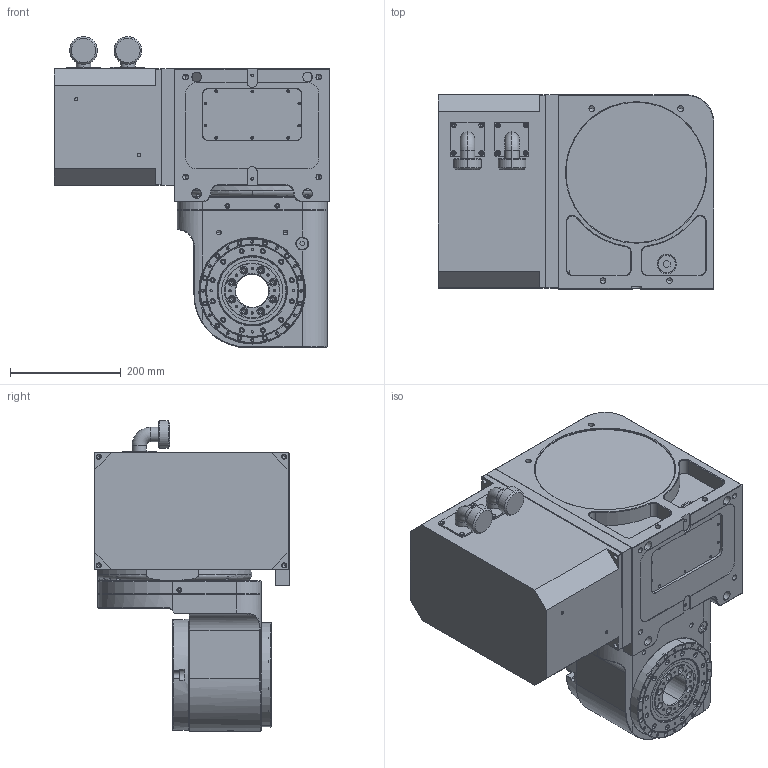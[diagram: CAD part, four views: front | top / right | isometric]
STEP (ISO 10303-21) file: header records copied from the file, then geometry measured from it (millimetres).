
FILE_DESCRIPTION (( 'STEP AP203' ), '1' );
FILE_NAME ('WDS-T200 軞蚾饜芞 REV.01.STEP', '2022-09-03T04:01:58', ( '' ), ( '' ), 'SwSTEP 2.0', 'SolidWorks 2021', '' );
FILE_SCHEMA (( 'CONFIG_CONTROL_DESIGN' ));
Products named in the file (1): WDS-T200 軞蚾饜芞 REV.01
Bounding box: 497 x 350 x 560 mm (x, y, z)
Volume: 31971458.1 mm3; surface area: 2377115.7 mm2
Topology: 12 solids, 33 shells, 2772 faces, 6505 edges, 3881 vertices
Faces by surface type: cylinder 1308, plane 672, cone 671, torus 108, bspline 13
Entity records: 82207 total; most frequent: CARTESIAN_POINT 17447, DIRECTION 14814, ORIENTED_EDGE 12402, EDGE_CURVE 6201, AXIS2_PLACEMENT_3D 6019, VERTEX_POINT 3881, EDGE_LOOP 3400, CIRCLE 3259
